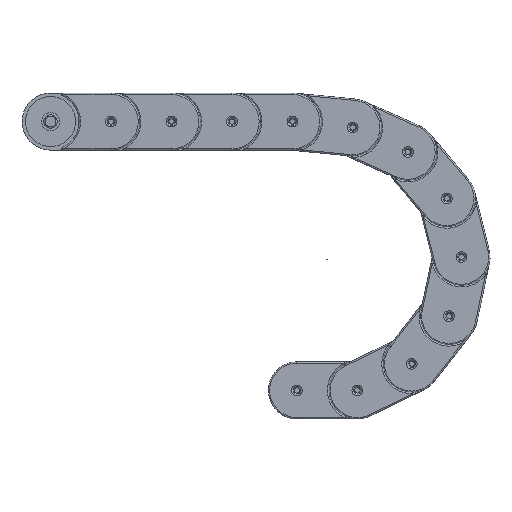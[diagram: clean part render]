
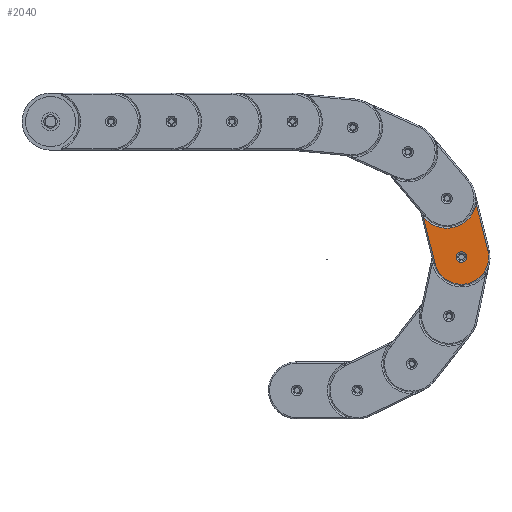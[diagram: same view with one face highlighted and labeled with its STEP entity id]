
A CAD part, left-side view. The second image highlights one B-rep face of the part: STEP entity #2040.
In plain terms, the highlighted planar face has unit normal (-1, 0, 0).
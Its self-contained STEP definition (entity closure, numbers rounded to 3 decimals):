
#1984=CARTESIAN_POINT('',(0.,98.0,42.5));
#1985=VERTEX_POINT('',#1984);
#1986=CARTESIAN_POINT('',(0.,90.0,42.5));
#1987=DIRECTION('',(-1.0,0.0,0.0));
#1988=DIRECTION('',(0.0,-1.0,0.0));
#1989=AXIS2_PLACEMENT_3D('',#1986,#1987,#1988);
#1990=CIRCLE('',#1989,8.0);
#1991=EDGE_CURVE('',#1985,#1985,#1990,.T.);
#1996=CARTESIAN_POINT('',(0.,45.,42.5));
#1997=DIRECTION('',(1.0,0.0,0.0));
#1998=DIRECTION('',(0.0,-1.0,0.0));
#1999=AXIS2_PLACEMENT_3D('',#1996,#1997,#1998);
#2000=PLANE('',#1999);
#2001=CARTESIAN_POINT('',(0.,90.0,83.));
#2002=VERTEX_POINT('',#2001);
#2003=CARTESIAN_POINT('',(0.,18.439,83.));
#2004=VERTEX_POINT('',#2003);
#2005=CARTESIAN_POINT('',(0.,90.0,83.));
#2006=DIRECTION('',(0.0,-1.0,0.0));
#2007=VECTOR('',#2006,71.561);
#2008=LINE('',#2005,#2007);
#2009=EDGE_CURVE('',#2002,#2004,#2008,.T.);
#2010=ORIENTED_EDGE('',*,*,#2009,.F.);
#2011=CARTESIAN_POINT('',(0.,90.0,2.));
#2012=VERTEX_POINT('',#2011);
#2013=CARTESIAN_POINT('',(0.,90.0,42.5));
#2014=DIRECTION('',(1.0,0.0,0.0));
#2015=DIRECTION('',(0.0,1.0,0.0));
#2016=AXIS2_PLACEMENT_3D('',#2013,#2014,#2015);
#2017=CIRCLE('',#2016,40.5);
#2018=EDGE_CURVE('',#2012,#2002,#2017,.T.);
#2019=ORIENTED_EDGE('',*,*,#2018,.F.);
#2020=CARTESIAN_POINT('',(0.,18.439,2.));
#2021=VERTEX_POINT('',#2020);
#2022=CARTESIAN_POINT('',(0.,18.439,2.));
#2023=DIRECTION('',(0.0,1.0,0.0));
#2024=VECTOR('',#2023,71.561);
#2025=LINE('',#2022,#2024);
#2026=EDGE_CURVE('',#2021,#2012,#2025,.T.);
#2027=ORIENTED_EDGE('',*,*,#2026,.F.);
#2028=CARTESIAN_POINT('',(0.,0.,42.5));
#2029=DIRECTION('',(-1.0,0.0,0.0));
#2030=DIRECTION('',(0.0,1.0,0.0));
#2031=AXIS2_PLACEMENT_3D('',#2028,#2029,#2030);
#2032=CIRCLE('',#2031,44.5);
#2033=EDGE_CURVE('',#2004,#2021,#2032,.T.);
#2034=ORIENTED_EDGE('',*,*,#2033,.F.);
#2035=EDGE_LOOP('',(#2010,#2019,#2027,#2034));
#2036=FACE_OUTER_BOUND('',#2035,.T.);
#2037=ORIENTED_EDGE('',*,*,#1991,.F.);
#2038=EDGE_LOOP('',(#2037));
#2039=FACE_BOUND('',#2038,.T.);
#2040=ADVANCED_FACE('',(#2036,#2039),#2000,.F.);
